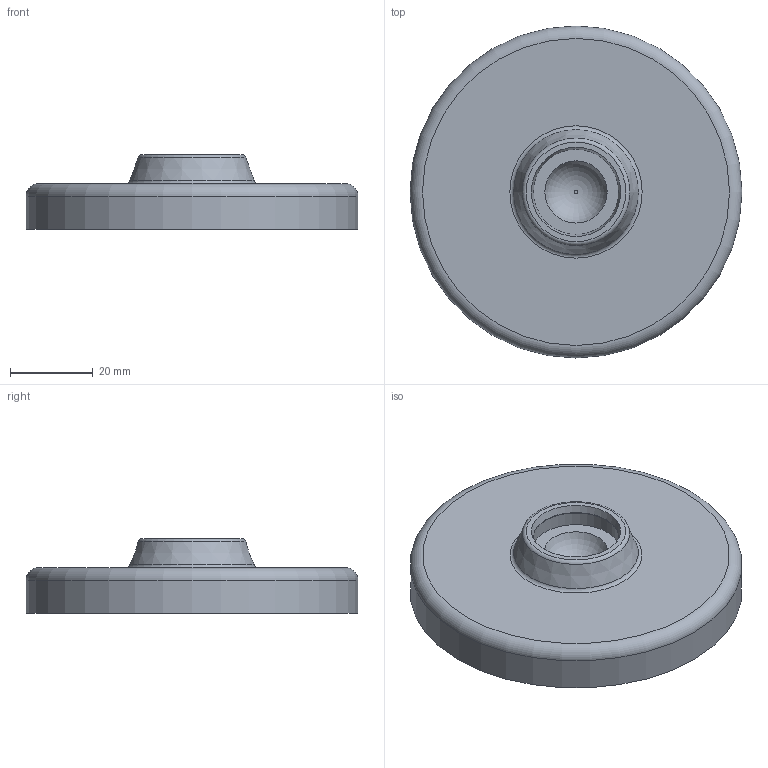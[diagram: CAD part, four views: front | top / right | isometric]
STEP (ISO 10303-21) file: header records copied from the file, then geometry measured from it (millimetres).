
FILE_DESCRIPTION(('STEP AP203'), '1');
FILE_NAME('À00015.4080', '', ('UNSPECIFIED'), ('UNSPECIFIED'), 'C3D Converter', 'C3D Toolkit', '');
FILE_SCHEMA(('CONFIG_CONTROL_DESIGN'));
Length unit declared in the file: millimetre
Products named in the file (1): А00016.4080
Bounding box: 80 x 80 x 18 mm (x, y, z)
Volume: 38238.5 mm3; surface area: 14570.2 mm2
Topology: 1 solids, 1 shells, 21 faces, 33 edges, 20 vertices
Faces by surface type: plane 8, torus 5, cylinder 4, cone 4
Full cylindrical faces by diameter (mm): 15 x1, 21 x1, 70 x1, 80 x1
Entity records: 449 total; most frequent: DIRECTION 84, CARTESIAN_POINT 62, AXIS2_PLACEMENT_3D 42, EDGE_LOOP 40, ORIENTED_EDGE 40, FACE_OUTER_BOUND 26, ADVANCED_FACE 21, EDGE_CURVE 20
